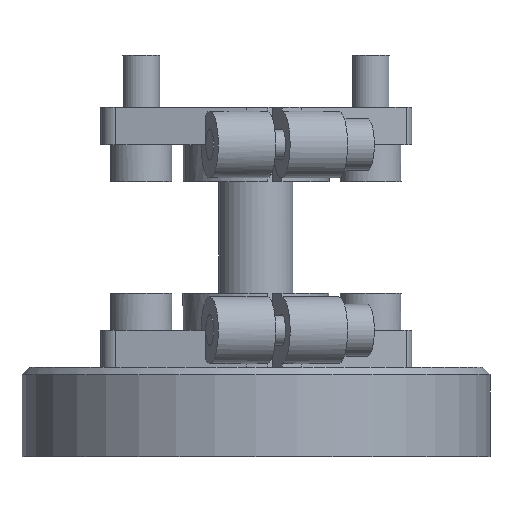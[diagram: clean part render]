
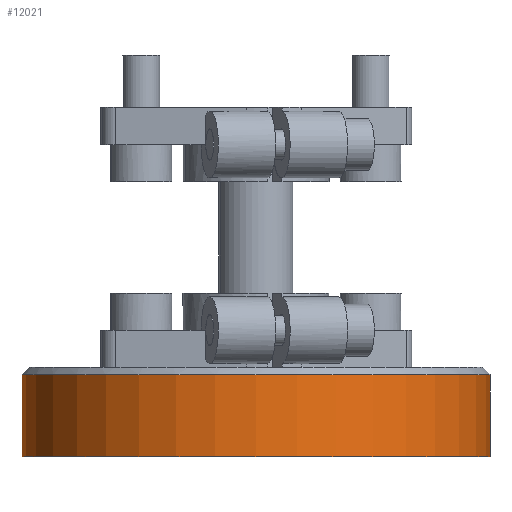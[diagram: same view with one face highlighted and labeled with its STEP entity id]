
A CAD part, front view. The second image highlights one B-rep face of the part: STEP entity #12021.
In plain terms, the highlighted cylindrical face has radius 31.5 mm (diameter 63 mm), a partial arc.
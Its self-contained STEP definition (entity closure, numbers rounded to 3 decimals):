
#138 = EDGE_CURVE ( 'NONE', #1005, #5194, #8671, .T. ) ;
#368 = EDGE_CURVE ( 'NONE', #6258, #5194, #4813, .T. ) ;
#460 = AXIS2_PLACEMENT_3D ( 'NONE', #5073, #8105, #4050 ) ;
#988 = FACE_OUTER_BOUND ( 'NONE', #4074, .T. ) ;
#1005 = VERTEX_POINT ( 'NONE', #7986 ) ;
#1730 = ORIENTED_EDGE ( 'NONE', *, *, #368, .T. ) ;
#1811 = VERTEX_POINT ( 'NONE', #5200 ) ;
#2040 = CARTESIAN_POINT ( 'NONE',  ( 31.5, 0., 0. ) ) ;
#3486 = ORIENTED_EDGE ( 'NONE', *, *, #138, .F. ) ;
#4050 = DIRECTION ( 'NONE',  ( 0., 1., 0. ) ) ;
#4074 = EDGE_LOOP ( 'NONE', ( #12715, #1730, #3486, #8044 ) ) ;
#4413 = EDGE_CURVE ( 'NONE', #1811, #6258, #12923, .T. ) ;
#4813 = LINE ( 'NONE', #2040, #10218 ) ;
#5073 = CARTESIAN_POINT ( 'NONE',  ( 0., 0., 12. ) ) ;
#5194 = VERTEX_POINT ( 'NONE', #9658 ) ;
#5200 = CARTESIAN_POINT ( 'NONE',  ( -31.5, 0., 0. ) ) ;
#5268 = CYLINDRICAL_SURFACE ( 'NONE', #460, 31.5 ) ;
#6039 = VECTOR ( 'NONE', #10624, 1000. ) ;
#6258 = VERTEX_POINT ( 'NONE', #9811 ) ;
#7164 = CARTESIAN_POINT ( 'NONE',  ( 0., 0., 11. ) ) ;
#7173 = DIRECTION ( 'NONE',  ( 0., 0., 1. ) ) ;
#7223 = DIRECTION ( 'NONE',  ( 1., 0., 0. ) ) ;
#7986 = CARTESIAN_POINT ( 'NONE',  ( -31.5, 0., 11. ) ) ;
#8044 = ORIENTED_EDGE ( 'NONE', *, *, #9434, .F. ) ;
#8105 = DIRECTION ( 'NONE',  ( 0., 0., 1. ) ) ;
#8671 = CIRCLE ( 'NONE', #10521, 31.5 ) ;
#8750 = LINE ( 'NONE', #11569, #6039 ) ;
#9434 = EDGE_CURVE ( 'NONE', #1811, #1005, #8750, .T. ) ;
#9658 = CARTESIAN_POINT ( 'NONE',  ( 31.5, 0., 11. ) ) ;
#9811 = CARTESIAN_POINT ( 'NONE',  ( 31.5, 0., 0. ) ) ;
#10218 = VECTOR ( 'NONE', #11205, 1000. ) ;
#10521 = AXIS2_PLACEMENT_3D ( 'NONE', #7164, #7173, #7223 ) ;
#10624 = DIRECTION ( 'NONE',  ( 0., 0., 1. ) ) ;
#11205 = DIRECTION ( 'NONE',  ( 0., 0., 1. ) ) ;
#11569 = CARTESIAN_POINT ( 'NONE',  ( -31.5, 0., 0. ) ) ;
#12021 = ADVANCED_FACE ( 'NONE', ( #988 ), #5268, .T. ) ;
#12258 = DIRECTION ( 'NONE',  ( 1., 0., 0. ) ) ;
#12337 = DIRECTION ( 'NONE',  ( 0., 0., 1. ) ) ;
#12372 = CARTESIAN_POINT ( 'NONE',  ( 0., 0., 0. ) ) ;
#12592 = AXIS2_PLACEMENT_3D ( 'NONE', #12372, #12337, #12258 ) ;
#12715 = ORIENTED_EDGE ( 'NONE', *, *, #4413, .T. ) ;
#12923 = CIRCLE ( 'NONE', #12592, 31.5 ) ;
